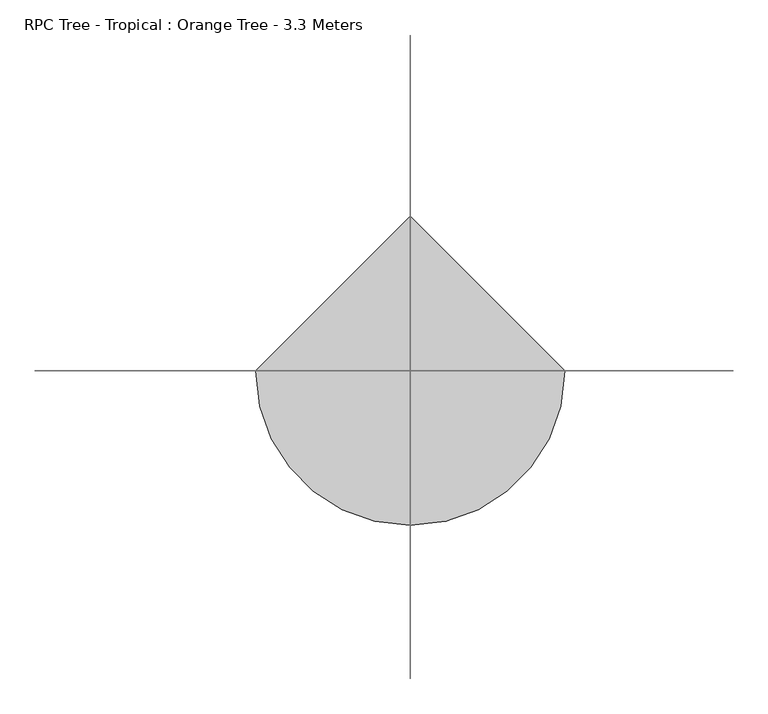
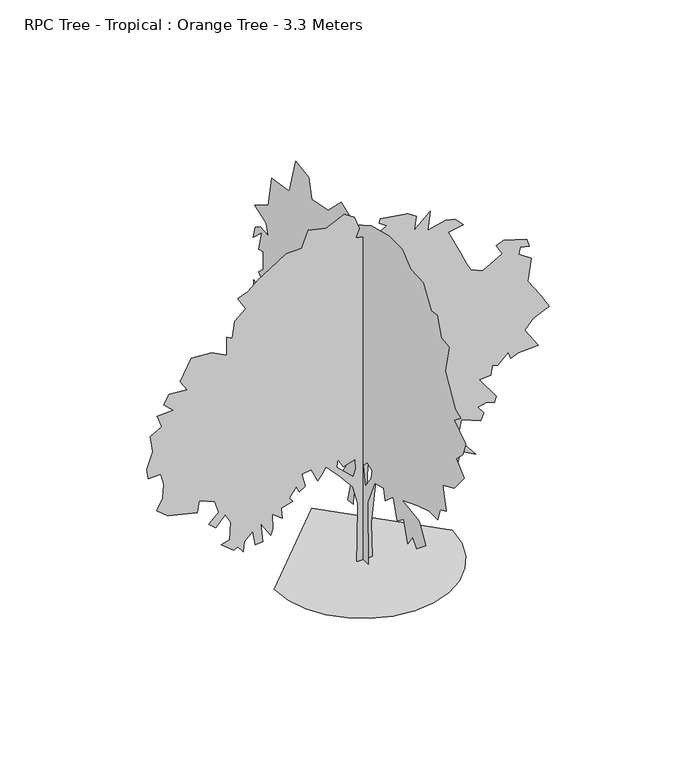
"""IFC4 building model written with IfcOpenShell, lengths in millimetres: geographic element geometry, RPC Tree - Tropical : Orange Tree - 3.3 Meters."""

from ifc_helpers import new_model, si_unit, origin, place, context, project, spatial, triangles, source, transform, mapped, element, save


def rpc_tree_tropical_orange_tree_3_3_meters_d64634ca(model_context):
    return source(origin(), model_context, "Body", "Tessellation", [
        triangles([(-791.0961164, 0.0, 5.96e-05), (-770.1760998, -181.3118072, 5.96e-05), (-710.598559, -347.8176141, 5.96e-05), (-617.1335518, -494.7476718, 5.96e-05), (-494.5509905, -617.3301968, 5.96e-05), (-347.6209328, -710.795204, 5.96e-05), (-181.1148897, -770.3727448, 5.96e-05), (0.1967057, -791.2927614, 5.96e-05), (181.5084703, -770.3727448, 5.96e-05), (348.0142954, -710.795204, 5.96e-05), (494.9443531, -617.3301968, 5.96e-05), (617.5268417, -494.7476718, 5.96e-05), (710.9918489, -347.8176141, 5.96e-05), (770.5693897, -181.3115529, 5.96e-05), (791.4894064, 6.92e-05, 5.96e-05), (0.1965673, 791.2927614, 5.96e-05), (0.1966246, -75.8822732, 4.73e-05), (0.196642, -71.6105227, 579.6776985), (0.1966445, -178.4083144, 823.175263), (0.1966395, -315.1100902, 861.6227709), (0.1966353, -340.7401028, 759.0977789), (0.196633, -464.6276353, 865.8952572), (0.1966247, -524.4326694, 677.9302042), (0.1966226, -622.6877186, 754.8252199), (0.1966142, -682.4951872, 562.5901877), (0.1966139, -763.6602184, 673.6601887), (0.1966091, -819.1952734, 596.765173), (0.1966062, -964.4403322, 716.3777121), (0.1966157, -861.9152676, 882.9828043), (0.1966285, -601.3276852, 921.4303122), (0.1966207, -836.2827478, 1011.140316), (0.1966145, -1015.7028282, 1070.9478573), (0.1966085, -1148.1328989, 1070.9478573), (0.1966103, -1182.3078478, 1182.0178946), (0.1966074, -1276.2904106, 1224.7354179), (0.1966161, -1225.0278419, 1438.3329906), (0.1966106, -1400.175436, 1519.4979492), (0.1966092, -1553.9654675, 1703.1905159), (0.1966181, -1430.0779713, 1814.2606258), (0.1966165, -1528.3330204, 1908.243116), (0.1966182, -1575.3230301, 2036.4007004), (0.1966297, -1395.902877, 2151.7407532), (0.1966274, -1502.700428, 2237.1782707), (0.1966321, -1417.2629105, 2267.0832767), (0.1966472, -1259.2029362, 2536.2257149), (0.196652, -1323.2804203, 2792.5257683), (0.1966579, -1199.3953949, 2805.3508575), (0.1966658, -1139.5878536, 2980.5009224), (0.1966697, -1045.6078342, 2967.6758331), (0.1966806, -925.9928244, 3155.6509872), (0.1966896, -729.4852695, 3164.1760483), (0.1966987, -597.0551989, 3270.9759247), (0.196708, -392.0026351, 3275.2509544), (0.196718, -122.8732867, 3206.9010567), (0.196725, 133.441546, 3057.3758812), (0.1967367, 334.2226227, 3147.1009277), (0.1967398, 535.0001567, 2950.6010033), (0.1967497, 787.0452736, 2903.6009651), (0.196757, 834.0352833, 3078.75103), (0.1967669, 1034.8153244, 3108.6509491), (0.1967611, 1133.0703735, 2766.9008789), (0.196772, 1406.4704006, 2724.1758705), (0.196766, 1462.0055283, 2437.9583118), (0.1967712, 1662.7855694, 2314.0732864), (0.1967617, 1491.9105343, 2249.995657), (0.1967572, 1457.7354401, 2151.7407532), (0.1967632, 1581.6204655, 2164.5581394), (0.1967649, 1658.5154812, 2109.0231571), (0.196763, 1688.4180164, 1997.9531925), (0.1967607, 1555.9880184, 2121.8382179), (0.1967574, 1607.2504417, 1933.8730923), (0.1967548, 1534.627985, 1955.2331257), (0.19675, 1538.900544, 1788.6280334), (0.1967512, 1607.2504417, 1724.5505493), (0.1967434, 1500.4530361, 1622.0230865), (0.1967437, 1560.2604321, 1545.1305416), (0.1967511, 1684.1456028, 1604.9354668), (0.1967478, 1692.6905754, 1481.0504414), (0.1967416, 1620.0679733, 1382.7980083), (0.1967447, 1701.2330772, 1365.7103886), (0.1967427, 1718.3205517, 1271.7278984), (0.1967399, 1624.3405323, 1318.7179081), (0.1967312, 1436.3754066, 1310.1754063), (0.1967324, 1602.9804989, 1100.8503199), (0.1967283, 1496.1829479, 1122.2103533), (0.19673, 1585.8930244, 1045.3153376), (0.19673, 1671.330542, 917.1578259), (0.1967278, 1611.5230007, 934.2453003), (0.1967213, 1551.7179302, 806.0877886), (0.1967236, 1547.4455166, 887.2552906), (0.1967191, 1427.830434, 917.1578259), (0.1967156, 1380.8404243, 870.1677435), (0.1967151, 1261.2279579, 1032.5003494), (0.1967096, 1244.1378674, 874.4403025), (0.1967076, 1175.7878969, 908.615324), (0.1967069, 1098.8928812, 1002.5978142), (0.1967005, 983.5528284, 959.87782), (0.1966962, 940.8328342, 878.7102453), (0.1966921, 949.3778069, 729.1952436), (0.1966868, 859.667803, 686.4752495), (0.1966868, 902.3852537, 622.3952219), (0.1966846, 923.7452871, 515.5976709), (0.1966786, 731.5102186, 601.0376956), (0.1966773, 646.0702303, 686.4752495), (0.1966733, 599.0801843, 622.3952219), (0.1966763, 569.1776854, 767.6402807), (0.196672, 513.6426667, 707.8352102), (0.1966704, 449.5626391, 750.5527336), (0.1966722, 458.1076481, 797.5452868), (0.1966691, 389.7576413, 797.5452868), (0.1966639, 329.9501, 712.1076965), (0.1966652, 287.2300877, 818.9052475), (0.1966612, 253.0550843, 737.7377455), (0.196661, 312.8625893, 639.4852398), (0.1966542, 120.6260401, 699.2902376), (0.1966539, 188.9765646, 588.2202003), (0.1966511, 240.2393332, 417.3451289), (0.1966476, 154.8013069, 425.8876307), (0.1966498, 141.9855467, 519.8701572), (0.1966488, 90.7225329, 562.5901877), (0.1966467, 43.7315149, 562.5901877), (0.1966411, 39.4595146, 383.1701074), (0.1966307, 60.8192709, 5.14e-05), (0.1966491, -135.6892922, 912.8852669), (0.1966474, -122.873541, 835.9927946), (0.1966476, -33.1635099, 707.8352102), (0.1966542, -3.259951, 887.2552906), (0.1966533, -63.0667718, 947.0628319), (57.9979406, 2.65e-05, 906.2002825), (38.5096861, 2.98e-05, 863.977787), (32.0134302, 4.15e-05, 672.3426819), (45.0056877, 4.43e-05, 617.1251947), (77.4856955, 3.53e-05, 743.8002388), (103.4702014, 2.68e-05, 867.2252632), (-55.6833472, 8.54e-05, 0.0), (-52.4350943, 7.33e-05, 201.3780606), (-49.1870958, 5.26e-05, 545.6701813), (-91.4116078, 4.44e-05, 714.5677208), (-221.3331652, 4.1e-05, 867.2252632), (-331.7659412, 3.87e-05, 987.4028114), (-357.7509467, 4.29e-05, 935.4328005), (-403.2234618, 4.82e-05, 880.2177841), (-458.4384782, 4.32e-05, 1003.6428085), (-542.8884833, 4.77e-05, 990.6502876), (-513.6559653, 5.38e-05, 867.2252632), (-565.6235055, 5.8e-05, 834.745269), (-594.8560235, 5.58e-05, 893.2077616), (-656.568572, 6.37e-05, 805.512751), (-624.0885778, 6.46e-05, 766.535261), (-728.0260563, 7.09e-05, 737.302743), (-718.2810843, 7.65e-05, 636.6152115), (-805.9786383, 7.62e-05, 704.8227488), (-802.7310894, 8.4e-05, 571.6526796), (-818.9710865, 8.8e-05, 516.4376633), (-909.9161167, 8.39e-05, 652.8552086), (-890.4286434, 9.33e-05, 480.7076494), (-955.3886318, 9.65e-05, 474.2126607), (-981.3736736, 8.97e-05, 607.3826935), (-1052.8286871, 9.71e-05, 535.9251729), (-1062.5736591, 0.0001029, 444.9801427), (-1111.2937231, 0.0001012, 509.9401674), (-1147.023737, 0.0001041, 487.2051453), (-1260.7037167, 0.0001035, 581.397688), (-1182.7512074, 9.89e-05, 600.8851976), (-1176.2537115, 8.91e-05, 760.0402359), (-1221.7262993, 8.59e-05, 847.7352465), (-1306.1762318, 9.5e-05, 756.7927597), (-1367.888744, 9.46e-05, 808.7602272), (-1280.1913353, 8.57e-05, 893.2077616), (-1315.9188057, 8.07e-05, 1003.6428085), (-1455.586298, 8.35e-05, 1058.8578249), (-1471.8262951, 9.04e-05, 954.9228172), (-1731.6688648, 9.81e-05, 1016.6353294), (-1829.1089928, 9.75e-05, 1097.8353876), (-1777.1413799, 8.93e-05, 1198.5229191), (-1770.6439568, 8.12e-05, 1328.4453667), (-1796.6289986, 7.64e-05, 1429.1329708), (-1907.0615021, 8.14e-05, 1425.8854946), (-1920.054023, 7.65e-05, 1516.8305248), (-1864.8364632, 6.52e-05, 1666.240591), (-1887.5740288, 5.75e-05, 1812.4030357), (-1786.8839539, 4.96e-05, 1870.865601), (-1825.8613712, 4.45e-05, 1984.5481968), (-1686.1963497, 3.8e-05, 1991.0431492), (-1770.6439568, 3.69e-05, 2072.2456055), (-1718.6763439, 3e-05, 2150.1982601), (-1559.5213783, 2.36e-05, 2140.4532154), (-1624.4838375, 2.06e-05, 2237.893198), (-1523.7939079, 5.4e-06, 2419.7832584), (-1345.1513237, -1.8e-06, 2410.0408298), (-1208.7337057, -3.5e-06, 2338.5832729), (-1208.7337057, -1.36e-05, 2507.4757256), (-1160.0137144, -1.42e-05, 2481.495916), (-1140.5262411, -2.41e-05, 2634.1508423), (-1039.8361662, -3.34e-05, 2715.3508278), (-1114.5411993, -3.73e-05, 2835.5260506), (-1023.5961691, -4.34e-05, 2871.2509048), (-926.1561865, -5.25e-05, 2952.4508904), (-822.2186354, -6.09e-05, 3017.4259941), (-682.5535412, -7.24e-05, 3108.3759659), (-546.1359959, -7.86e-05, 3111.6260582), (-487.6709599, -8.99e-05, 3257.776149), (-328.5184287, -9.47e-05, 3222.051004), (-169.3638991, -0.0001063, 3300.0011879), (-78.4191051, -0.0001066, 3238.2761765), (-36.1948406, -0.0001013, 3118.1009537), (-65.4270974, -9.55e-05, 3043.4008621), (113.2147101, -0.0001008, 3001.1758232), (210.6557283, -0.0001084, 3056.4009407), (142.4469647, -0.0001083, 3105.1258736), (152.1912191, -0.000111, 3144.1011108), (395.7943005, -0.0001194, 3105.1258736), (470.4993336, -0.0001195, 3053.1508484), (454.2593365, -0.0001115, 2929.725824), (597.1718705, -0.0001255, 3059.651033), (571.186865, -0.0001141, 2887.5007851), (733.5893795, -0.0001235, 2926.4760223), (814.7894377, -0.0001259, 2907.0010483), (886.2469219, -0.0001244, 2829.0258659), (756.3244017, -0.0001171, 2803.0509979), (863.509429, -0.0001079, 2569.200737), (915.4794399, -0.0001036, 2458.7606758), (954.4544592, -0.0001008, 2384.055788), (1061.6394865, -0.0001026, 2335.3357967), (1233.7870457, -0.0001161, 2436.0232555), (1178.5694859, -0.0001193, 2530.2257904), (1246.7770958, -0.000124, 2559.4507507), (1451.4045765, -0.0001291, 2494.4884369), (1474.1396713, -0.0001259, 2423.0332054), (1392.9395405, -0.0001233, 2439.2732025), (1379.9470196, -0.0001192, 2380.8083118), (1490.3796684, -0.0001194, 2302.8558025), (1457.8996742, -0.0001058, 2098.2281765), (1568.3321777, -0.0001011, 1939.0756817), (1652.7821102, -9.63e-05, 1796.1630386), (1506.6196655, -8.62e-05, 1734.4480556), (1435.1645794, -7.79e-05, 1646.7529724), (1552.0921806, -7.23e-05, 1468.1105335), (1376.6995434, -6.41e-05, 1458.3654888), (1308.489608, -5.94e-05, 1429.1329708), (1289.0019894, -6.22e-05, 1490.8479538), (1194.8095556, -5.3e-05, 1406.3980213), (1142.8420155, -5.15e-05, 1419.3903969), (1133.0970434, -4.59e-05, 1331.6929882), (1029.1594923, -4.12e-05, 1328.4453667), (1178.5694859, -3.53e-05, 1120.5703371), (1162.3294888, -3.11e-05, 1062.1078445), (1097.3695004, -3e-05, 1091.3378191), (1016.1669714, -2.53e-05, 1071.8503458), (1068.1369823, -2.35e-05, 1003.6428085), (1042.1520132, -1.83e-05, 935.4328005), (870.0069248, -1.5e-05, 1006.8903574), (840.7744068, -3.7e-06, 837.9927452), (996.6794981, 1.3e-06, 639.8626877), (863.509429, 2.7e-06, 714.5677208), (818.0369139, 1.61e-05, 522.932652), (788.8043959, 1.02e-05, 643.1102365), (733.5893795, 8.5e-06, 711.3202446), (632.8993773, 1.57e-05, 665.8477295), (577.6843609, 2.43e-05, 561.9101784), (480.2418348, 2.12e-05, 685.3352028), (386.0492921, 1.73e-05, 818.5052719), (343.8242895, 2.44e-05, 730.8077179), (311.3442953, 1.73e-05, 873.7202883), (184.6714677, 2.65e-05, 812.0077761), (113.2147101, 3.66e-05, 695.077704), (70.9901935, 6.05e-05, 324.8025945), (80.7341982, 7.95e-05, 0.000105), (-175.8606501, 3.51e-05, 932.1853243), (-224.5811501, 3.2e-05, 1019.8828056), (-234.3251593, 3.67e-05, 948.4253214), (-88.1636048, 3.88e-05, 805.512751), (-65.4273472, 3.38e-05, 873.7202883), (-71.9233488, 2.87e-05, 964.6653185)], [[15, 16, 1], [14, 15, 1], [14, 1, 2], [13, 14, 2], [13, 2, 3], [13, 3, 4], [12, 13, 4], [11, 12, 4], [11, 4, 5], [11, 5, 6], [11, 6, 7], [11, 7, 8], [11, 8, 9], [11, 9, 10], [126, 17, 18], [88, 89, 90], [68, 69, 70], [67, 68, 70], [83, 84, 85], [86, 87, 88], [126, 18, 19], [125, 126, 19], [113, 114, 115], [104, 105, 106], [63, 64, 65], [80, 81, 82], [79, 80, 82], [66, 67, 70], [24, 25, 26], [101, 102, 103], [110, 111, 112], [42, 43, 44], [70, 71, 72], [20, 21, 22], [100, 101, 103], [116, 117, 118], [116, 118, 119], [76, 77, 78], [22, 23, 24], [93, 94, 95], [93, 95, 96], [76, 78, 79], [91, 92, 93], [45, 46, 47], [116, 119, 120], [115, 116, 120], [26, 27, 28], [26, 28, 29], [26, 29, 30], [24, 26, 30], [22, 24, 30], [123, 17, 126], [122, 123, 126], [121, 122, 126], [73, 74, 75], [79, 82, 83], [76, 79, 83], [37, 38, 39], [124, 125, 19], [59, 60, 61], [58, 59, 61], [106, 107, 108], [106, 108, 109], [66, 70, 72], [124, 19, 20], [34, 35, 36], [47, 48, 49], [100, 103, 104], [115, 120, 121], [115, 121, 126], [115, 126, 127], [40, 41, 42], [39, 40, 42], [32, 33, 34], [113, 115, 127], [112, 113, 127], [61, 62, 63], [55, 56, 57], [98, 99, 100], [98, 100, 104], [98, 104, 106], [86, 88, 90], [86, 90, 91], [85, 86, 91], [85, 91, 93], [83, 85, 93], [75, 76, 83], [36, 37, 39], [49, 50, 51], [83, 93, 96], [32, 34, 36], [97, 98, 106], [31, 32, 36], [42, 44, 45], [97, 106, 109], [51, 52, 53], [75, 83, 96], [75, 96, 97], [61, 63, 65], [61, 65, 66], [58, 61, 66], [57, 58, 66], [75, 97, 109], [73, 75, 109], [72, 73, 109], [66, 72, 109], [57, 66, 109], [57, 109, 110], [57, 110, 112], [57, 112, 127], [57, 127, 128], [55, 57, 128], [54, 55, 128], [53, 54, 128], [51, 53, 128], [49, 51, 128], [47, 49, 128], [45, 47, 128], [42, 45, 128], [39, 42, 128], [36, 39, 128], [31, 36, 128], [30, 31, 128], [30, 128, 124], [30, 124, 20], [30, 20, 22], [135, 130, 131], [130, 135, 136], [130, 136, 137], [135, 131, 132], [253, 254, 255], [255, 256, 257], [130, 137, 138], [272, 129, 130], [272, 130, 138], [129, 272, 273], [262, 263, 264], [214, 215, 216], [272, 138, 139], [271, 272, 139], [271, 139, 140], [159, 160, 161], [150, 151, 152], [153, 154, 155], [152, 153, 155], [162, 163, 164], [218, 219, 220], [237, 238, 239], [228, 229, 230], [227, 228, 230], [191, 192, 193], [141, 142, 143], [148, 149, 150], [259, 260, 261], [182, 183, 184], [217, 218, 220], [161, 162, 164], [270, 271, 140], [129, 273, 274], [195, 196, 197], [268, 135, 132], [267, 268, 132], [266, 267, 132], [266, 132, 133], [265, 266, 133], [265, 133, 134], [246, 247, 248], [245, 246, 248], [234, 235, 236], [140, 141, 143], [225, 226, 227], [225, 227, 230], [225, 230, 231], [167, 168, 169], [166, 167, 169], [239, 240, 241], [145, 146, 147], [144, 145, 147], [255, 257, 258], [253, 255, 258], [171, 172, 173], [237, 239, 241], [216, 217, 220], [245, 248, 249], [250, 251, 252], [249, 250, 252], [155, 156, 157], [155, 157, 158], [210, 211, 212], [209, 210, 212], [177, 178, 179], [243, 244, 245], [201, 202, 203], [184, 185, 186], [184, 186, 187], [274, 269, 270], [173, 174, 175], [171, 173, 175], [159, 161, 164], [177, 179, 180], [158, 159, 164], [158, 164, 165], [155, 158, 165], [171, 175, 176], [180, 181, 182], [188, 189, 190], [187, 188, 190], [187, 190, 191], [231, 232, 233], [245, 249, 252], [212, 213, 214], [209, 212, 214], [203, 204, 205], [203, 205, 206], [203, 206, 207], [201, 203, 207], [264, 265, 134], [208, 209, 214], [241, 242, 243], [225, 231, 233], [224, 225, 233], [233, 234, 236], [224, 233, 236], [224, 236, 237], [224, 237, 241], [224, 241, 243], [223, 224, 243], [223, 243, 245], [152, 155, 165], [152, 165, 166], [259, 261, 262], [258, 259, 262], [253, 258, 262], [252, 253, 262], [252, 262, 264], [245, 252, 264], [223, 245, 264], [223, 264, 134], [223, 134, 129], [223, 129, 274], [223, 274, 270], [222, 223, 270], [221, 222, 270], [220, 221, 270], [216, 220, 270], [214, 216, 270], [208, 214, 270], [207, 208, 270], [201, 207, 270], [200, 201, 270], [199, 200, 270], [198, 199, 270], [197, 198, 270], [195, 197, 270], [194, 195, 270], [193, 194, 270], [191, 193, 270], [191, 270, 140], [191, 140, 143], [191, 143, 144], [187, 191, 144], [184, 187, 144], [182, 184, 144], [180, 182, 144], [177, 180, 144], [176, 177, 144], [171, 176, 144], [170, 171, 144], [170, 144, 147], [169, 170, 147], [166, 169, 147], [152, 166, 147], [152, 147, 148], [152, 148, 150]], closed=False),
    ])


if __name__ == "__main__":
    model = new_model("IFC4")
    model_context = context("Model", 3, world=origin())
    ifc_project = project(units=[si_unit("LENGTHUNIT", "METRE", prefix="MILLI")], contexts=[model_context])
    site = spatial("IfcSite", under=ifc_project)
    building = spatial("IfcBuilding", under=site)
    placement = place(None, origin())
    rpc_tree_tropical_orange_tree_3_3_meters_shape = rpc_tree_tropical_orange_tree_3_3_meters_d64634ca(model_context)
    element("IfcGeographicElement", 1, ObjectType="RPC Tree - Tropical : Orange Tree - 3.3 Meters", at=placement, inside=building, context=model_context, shape_type="MappedRepresentation", body=[
        mapped(rpc_tree_tropical_orange_tree_3_3_meters_shape, transform((0.0, 0.0, 0.0), x_axis=(1.0, 0.0, 0.0), y_axis=(0.0, 1.0, 0.0), z_axis=(0.0, 0.0, 1.0))),
    ])
    save(model, "model.ifc")
